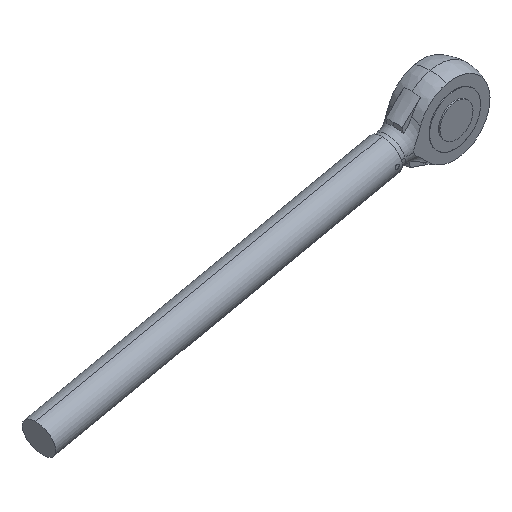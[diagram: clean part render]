
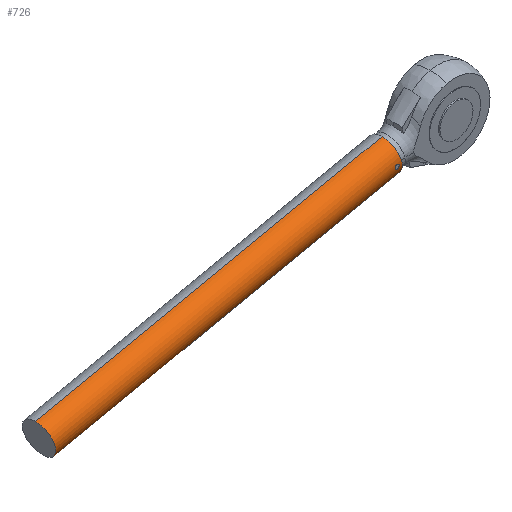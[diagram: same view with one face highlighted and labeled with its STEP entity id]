
A CAD part, isometric view. The second image highlights one B-rep face of the part: STEP entity #726.
In plain terms, the highlighted cylindrical face has radius 25 mm (diameter 50 mm), a partial arc.
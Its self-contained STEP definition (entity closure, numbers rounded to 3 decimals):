
#1 = CARTESIAN_POINT ( 'NONE',  ( -491.821, -194., 607.704 ) ) ;
#5 = CARTESIAN_POINT ( 'NONE',  ( 27.173, -219., 717.592 ) ) ;
#16 = CARTESIAN_POINT ( 'NONE',  ( 22.337, -218.854, 719.524 ) ) ;
#44 = EDGE_CURVE ( 'NONE', #1016, #938, #1955, .T. ) ;
#76 = CARTESIAN_POINT ( 'NONE',  ( 25.128, -218.864, 720.021 ) ) ;
#88 = CARTESIAN_POINT ( 'NONE',  ( 23.959, -218.819, 720.178 ) ) ;
#120 = CARTESIAN_POINT ( 'NONE',  ( 24.625, -218.819, 714.186 ) ) ;
#130 = CYLINDRICAL_SURFACE ( 'NONE', #977, 25. ) ;
#133 = EDGE_CURVE ( 'NONE', #1452, #1101, #737, .T. ) ;
#144 = VECTOR ( 'NONE', #1505, 1000. ) ;
#157 = CARTESIAN_POINT ( 'NONE',  ( 36.722, -194., 694.263 ) ) ;
#160 = CARTESIAN_POINT ( 'NONE',  ( 26.222, -218.863, 714.913 ) ) ;
#175 = DIRECTION ( 'NONE',  ( -0.978, 0., -0.208 ) ) ;
#189 = LINE ( 'NONE', #1770, #1817 ) ;
#226 = EDGE_CURVE ( 'NONE', #1101, #733, #556, .T. ) ;
#275 = CARTESIAN_POINT ( 'NONE',  ( 27.057, -218.955, 716.233 ) ) ;
#286 = CARTESIAN_POINT ( 'NONE',  ( 22.231, -218.934, 714.862 ) ) ;
#306 = AXIS2_PLACEMENT_3D ( 'NONE', #1591, #175, #816 ) ;
#307 = CARTESIAN_POINT ( 'NONE',  ( 26.91, -218.933, 715.867 ) ) ;
#316 = EDGE_CURVE ( 'NONE', #1843, #1033, #189, .T. ) ;
#318 = CARTESIAN_POINT ( 'NONE',  ( 23.575, -218.819, 720.097 ) ) ;
#319 = CARTESIAN_POINT ( 'NONE',  ( 27.182, -218.982, 716.806 ) ) ;
#336 = CARTESIAN_POINT ( 'NONE',  ( 22.186, -218.864, 719.397 ) ) ;
#356 = DIRECTION ( 'NONE',  ( -0.978, 0., -0.208 ) ) ;
#372 = CARTESIAN_POINT ( 'NONE',  ( 25.666, -218.898, 719.785 ) ) ;
#388 = CARTESIAN_POINT ( 'NONE',  ( 26.151, -218.933, 719.447 ) ) ;
#421 = EDGE_LOOP ( 'NONE', ( #974, #1709, #1648, #1169 ) ) ;
#453 = CARTESIAN_POINT ( 'NONE',  ( 21.344, -219., 716.155 ) ) ;
#454 = CARTESIAN_POINT ( 'NONE',  ( 27.132, -219., 717.785 ) ) ;
#479 = CARTESIAN_POINT ( 'NONE',  ( 21.468, -218.934, 718.468 ) ) ;
#556 = B_SPLINE_CURVE_WITH_KNOTS ( 'NONE', 3,
 ( #1000, #1428, #994, #1285, #960, #1275, #479, #837, #1125, #336, #16, #650, #847, #318 ),
 .UNSPECIFIED., .F., .F.,
 ( 4, 2, 2, 2, 2, 2, 4 ),
 ( 0., 0.125, 0.25, 0.5, 0.625, 0.75, 1. ),
 .UNSPECIFIED. ) ;
#593 = CARTESIAN_POINT ( 'NONE',  ( 24.036, -218.831, 714.16 ) ) ;
#635 = DIRECTION ( 'NONE',  ( -0.208, 0., 0.978 ) ) ;
#650 = CARTESIAN_POINT ( 'NONE',  ( 22.823, -218.829, 719.858 ) ) ;
#726 = ADVANCED_FACE ( 'NONE', ( #1244, #1391 ), #130, .T. ) ;
#733 = VERTEX_POINT ( 'NONE', #2006 ) ;
#737 = B_SPLINE_CURVE_WITH_KNOTS ( 'NONE', 3,
 ( #454, #5, #1731, #778, #319, #1574, #275, #307, #1259, #951, #160, #1864, #800, #962, #1116, #120, #755, #593, #1230, #1390, #1243, #1853, #1696, #286, #928, #1695, #453, #789 ),
 .UNSPECIFIED., .F., .F.,
 ( 4, 2, 2, 2, 2, 2, 2, 2, 2, 2, 2, 2, 2, 4 ),
 ( 0., 0.062, 0.125, 0.187, 0.25, 0.375, 0.437, 0.5, 0.562, 0.625, 0.687, 0.75, 0.875, 1. ),
 .UNSPECIFIED. ) ;
#743 = DIRECTION ( 'NONE',  ( -0.208, 0., 0.978 ) ) ;
#755 = CARTESIAN_POINT ( 'NONE',  ( 24.43, -218.822, 714.165 ) ) ;
#767 = CARTESIAN_POINT ( 'NONE',  ( -551.199, -194., 595.108 ) ) ;
#771 = CARTESIAN_POINT ( 'NONE',  ( 26.346, -194., 743.174 ) ) ;
#778 = CARTESIAN_POINT ( 'NONE',  ( 27.199, -218.989, 717.003 ) ) ;
#789 = CARTESIAN_POINT ( 'NONE',  ( 21.262, -219., 716.54 ) ) ;
#800 = CARTESIAN_POINT ( 'NONE',  ( 25.563, -218.831, 714.484 ) ) ;
#816 = DIRECTION ( 'NONE',  ( -0.208, 0., 0.978 ) ) ;
#830 = ORIENTED_EDGE ( 'NONE', *, *, #226, .T. ) ;
#837 = CARTESIAN_POINT ( 'NONE',  ( 21.789, -218.898, 718.962 ) ) ;
#847 = CARTESIAN_POINT ( 'NONE',  ( 23.188, -218.819, 720.015 ) ) ;
#873 = CARTESIAN_POINT ( 'NONE',  ( 23.575, -218.819, 720.097 ) ) ;
#888 = CARTESIAN_POINT ( 'NONE',  ( 27.132, -219., 717.785 ) ) ;
#928 = CARTESIAN_POINT ( 'NONE',  ( 21.947, -218.957, 715.139 ) ) ;
#938 = VERTEX_POINT ( 'NONE', #1792 ) ;
#951 = CARTESIAN_POINT ( 'NONE',  ( 26.498, -218.886, 715.198 ) ) ;
#960 = CARTESIAN_POINT ( 'NONE',  ( 21.212, -218.982, 717.516 ) ) ;
#962 = CARTESIAN_POINT ( 'NONE',  ( 25.199, -218.822, 714.328 ) ) ;
#974 = ORIENTED_EDGE ( 'NONE', *, *, #44, .F. ) ;
#977 = AXIS2_PLACEMENT_3D ( 'NONE', #767, #1831, #743 ) ;
#983 = CIRCLE ( 'NONE', #1890, 25. ) ;
#994 = CARTESIAN_POINT ( 'NONE',  ( 21.2, -218.998, 716.93 ) ) ;
#1000 = CARTESIAN_POINT ( 'NONE',  ( 21.262, -219., 716.54 ) ) ;
#1014 = CARTESIAN_POINT ( 'NONE',  ( 27.05, -219., 718.17 ) ) ;
#1016 = VERTEX_POINT ( 'NONE', #157 ) ;
#1033 = VERTEX_POINT ( 'NONE', #1273 ) ;
#1075 = B_SPLINE_CURVE_WITH_KNOTS ( 'NONE', 3,
 ( #873, #88, #1951, #1943, #76, #1788, #372, #1193, #388, #1213, #1976, #1653, #1014, #1636 ),
 .UNSPECIFIED., .F., .F.,
 ( 4, 2, 2, 2, 2, 2, 4 ),
 ( 0., 0.25, 0.375, 0.5, 0.625, 0.75, 1. ),
 .UNSPECIFIED. ) ;
#1101 = VERTEX_POINT ( 'NONE', #1320 ) ;
#1116 = CARTESIAN_POINT ( 'NONE',  ( 25.01, -218.819, 714.268 ) ) ;
#1125 = CARTESIAN_POINT ( 'NONE',  ( 21.911, -218.886, 719.114 ) ) ;
#1138 = ORIENTED_EDGE ( 'NONE', *, *, #133, .T. ) ;
#1169 = ORIENTED_EDGE ( 'NONE', *, *, #1617, .F. ) ;
#1193 = CARTESIAN_POINT ( 'NONE',  ( 25.997, -218.922, 719.57 ) ) ;
#1213 = CARTESIAN_POINT ( 'NONE',  ( 26.432, -218.955, 719.173 ) ) ;
#1230 = CARTESIAN_POINT ( 'NONE',  ( 23.839, -218.838, 714.177 ) ) ;
#1243 = CARTESIAN_POINT ( 'NONE',  ( 23.266, -218.864, 714.303 ) ) ;
#1244 = FACE_BOUND ( 'NONE', #1858, .T. ) ;
#1259 = CARTESIAN_POINT ( 'NONE',  ( 26.819, -218.922, 715.692 ) ) ;
#1269 = ORIENTED_EDGE ( 'NONE', *, *, #1446, .T. ) ;
#1273 = CARTESIAN_POINT ( 'NONE',  ( -497.009, -194., 632.159 ) ) ;
#1275 = CARTESIAN_POINT ( 'NONE',  ( 21.32, -218.957, 718.098 ) ) ;
#1280 = EDGE_CURVE ( 'NONE', #1016, #1843, #1283, .T. ) ;
#1283 = CIRCLE ( 'NONE', #306, 25. ) ;
#1285 = CARTESIAN_POINT ( 'NONE',  ( 21.195, -218.989, 717.322 ) ) ;
#1320 = CARTESIAN_POINT ( 'NONE',  ( 21.262, -219., 716.54 ) ) ;
#1390 = CARTESIAN_POINT ( 'NONE',  ( 23.453, -218.854, 714.249 ) ) ;
#1391 = FACE_OUTER_BOUND ( 'NONE', #421, .T. ) ;
#1428 = CARTESIAN_POINT ( 'NONE',  ( 21.221, -219., 716.733 ) ) ;
#1446 = EDGE_CURVE ( 'NONE', #733, #1452, #1075, .T. ) ;
#1452 = VERTEX_POINT ( 'NONE', #888 ) ;
#1505 = DIRECTION ( 'NONE',  ( -0.978, 0., -0.208 ) ) ;
#1574 = CARTESIAN_POINT ( 'NONE',  ( 27.111, -218.965, 716.42 ) ) ;
#1591 = CARTESIAN_POINT ( 'NONE',  ( 31.534, -194., 718.718 ) ) ;
#1617 = EDGE_CURVE ( 'NONE', #938, #1033, #983, .T. ) ;
#1636 = CARTESIAN_POINT ( 'NONE',  ( 27.132, -219., 717.785 ) ) ;
#1648 = ORIENTED_EDGE ( 'NONE', *, *, #316, .T. ) ;
#1653 = CARTESIAN_POINT ( 'NONE',  ( 26.893, -218.99, 718.536 ) ) ;
#1692 = DIRECTION ( 'NONE',  ( -0.978, 0., -0.208 ) ) ;
#1695 = CARTESIAN_POINT ( 'NONE',  ( 21.501, -218.99, 715.789 ) ) ;
#1696 = CARTESIAN_POINT ( 'NONE',  ( 22.725, -218.898, 714.541 ) ) ;
#1709 = ORIENTED_EDGE ( 'NONE', *, *, #1280, .T. ) ;
#1731 = CARTESIAN_POINT ( 'NONE',  ( 27.194, -218.998, 717.398 ) ) ;
#1770 = CARTESIAN_POINT ( 'NONE',  ( -556.387, -194., 619.564 ) ) ;
#1788 = CARTESIAN_POINT ( 'NONE',  ( 25.493, -218.886, 719.875 ) ) ;
#1792 = CARTESIAN_POINT ( 'NONE',  ( -486.634, -194., 583.248 ) ) ;
#1817 = VECTOR ( 'NONE', #356, 1000. ) ;
#1831 = DIRECTION ( 'NONE',  ( -0.978, 0., -0.208 ) ) ;
#1843 = VERTEX_POINT ( 'NONE', #771 ) ;
#1853 = CARTESIAN_POINT ( 'NONE',  ( 22.9, -218.886, 714.45 ) ) ;
#1858 = EDGE_LOOP ( 'NONE', ( #830, #1269, #1138 ) ) ;
#1864 = CARTESIAN_POINT ( 'NONE',  ( 25.734, -218.838, 714.578 ) ) ;
#1890 = AXIS2_PLACEMENT_3D ( 'NONE', #1, #1692, #635 ) ;
#1943 = CARTESIAN_POINT ( 'NONE',  ( 24.939, -218.854, 720.076 ) ) ;
#1947 = CARTESIAN_POINT ( 'NONE',  ( -546.012, -194., 570.652 ) ) ;
#1951 = CARTESIAN_POINT ( 'NONE',  ( 24.358, -218.829, 720.184 ) ) ;
#1955 = LINE ( 'NONE', #1947, #144 ) ;
#1976 = CARTESIAN_POINT ( 'NONE',  ( 26.557, -218.965, 719.024 ) ) ;
#2006 = CARTESIAN_POINT ( 'NONE',  ( 23.575, -218.819, 720.097 ) ) ;
